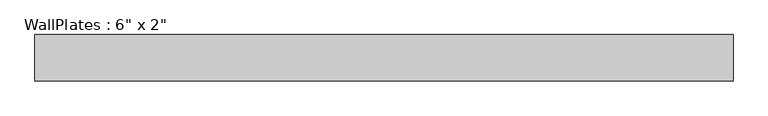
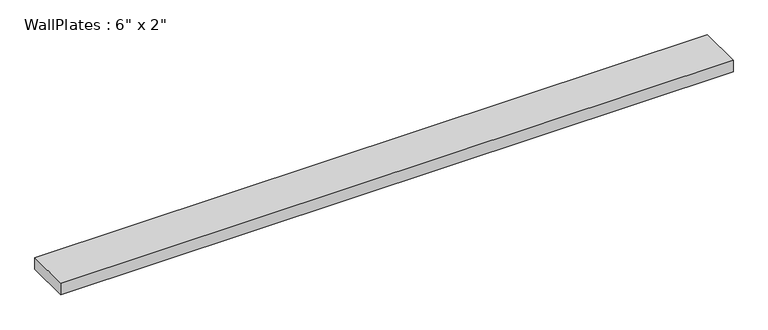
"""IFC4 building model written with IfcOpenShell, lengths in millimetres: beam geometry."""

from ifc_helpers import new_model, si_unit, frame, origin, place, context, project, spatial, polyline, outline, extrude, source, transform, mapped, element, save


def beam_edb33da1(model_context):
    return source(origin(), model_context, "Body", "SweptSolid", [
        extrude(outline(polyline([(-1054.095, -69.85), (-1054.095, 69.85), (1054.095, 69.85), (1054.095, -69.85), (-1054.095, -69.85)])), frame((0.0, 0.0, -19.05), z_axis=(0.0, 0.0, 1.0), x_axis=(1.0, 0.0, 0.0)), (0.0, 0.0, 1.0), 38.1),
    ])


if __name__ == "__main__":
    model = new_model("IFC4")
    model_context = context("Model", 3, world=origin())
    ifc_project = project(units=[si_unit("LENGTHUNIT", "METRE", prefix="MILLI")], contexts=[model_context])
    site = spatial("IfcSite", under=ifc_project)
    building = spatial("IfcBuilding", under=site)
    placement = place(None, origin())
    beam_shape = beam_edb33da1(model_context)
    element("IfcBeam", 1, ObjectType="WallPlates : 6\" x 2\"", at=placement, inside=building, context=model_context, shape_type="MappedRepresentation", body=[
        mapped(beam_shape, transform((0.0, 0.0, 0.0), x_axis=(1.0, 0.0, 0.0), y_axis=(0.0, 1.0, 0.0), z_axis=(0.0, 0.0, 1.0))),
    ])
    save(model, "model.ifc")
